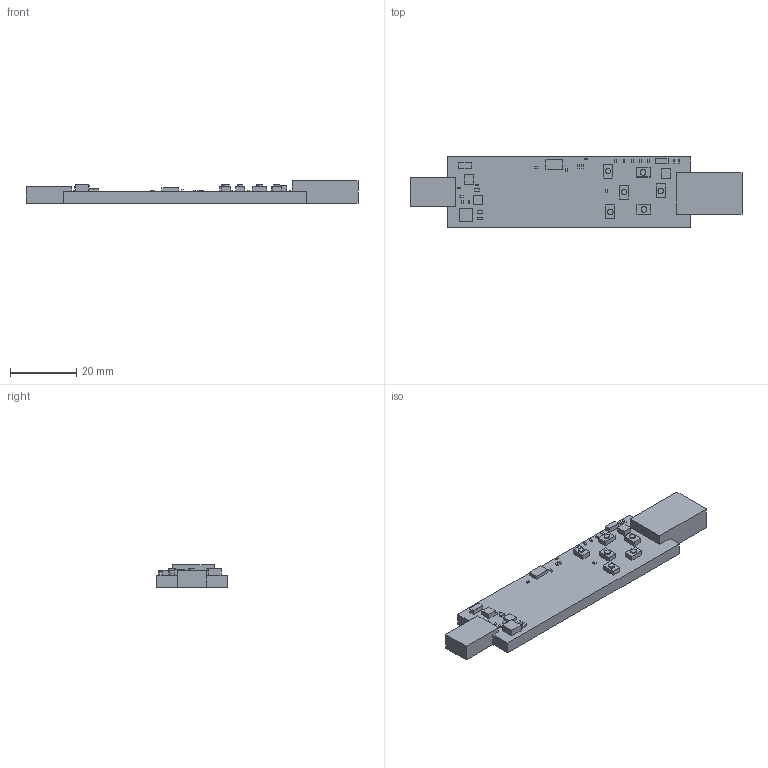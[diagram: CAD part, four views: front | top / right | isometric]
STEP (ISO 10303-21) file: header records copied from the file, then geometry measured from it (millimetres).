
FILE_DESCRIPTION(('Open CASCADE Model'),'2;1');
FILE_NAME('Open CASCADE Shape Model','2026-10-13T21:41:31',('Author'),( 'Open CASCADE'),'Open CASCADE STEP processor 7.9','Open CASCADE 7.9' ,'Unknown');
FILE_SCHEMA(('AUTOMOTIVE_DESIGN { 1 0 10303 214 1 1 1 1 }'));
Length unit declared in the file: millimetre
Products named in the file (1): Open CASCADE STEP translator 7.9 1
Bounding box: 100.13 x 21.21 x 6.86 mm (x, y, z)
Volume: 7928.1 mm3; surface area: 5152.1 mm2
Topology: 1 solids, 1 shells, 200 faces, 474 edges, 316 vertices
Faces by surface type: plane 194, cylinder 6
Full cylindrical faces by diameter (mm): 1.7 x6
Entity records: 11548 total; most frequent: CARTESIAN_POINT 2267, DIRECTION 1538, LINE 1106, VECTOR 1106, ORIENTED_EDGE 948, PCURVE 948, DEFINITIONAL_REPRESENTATION 948, EDGE_CURVE 474
